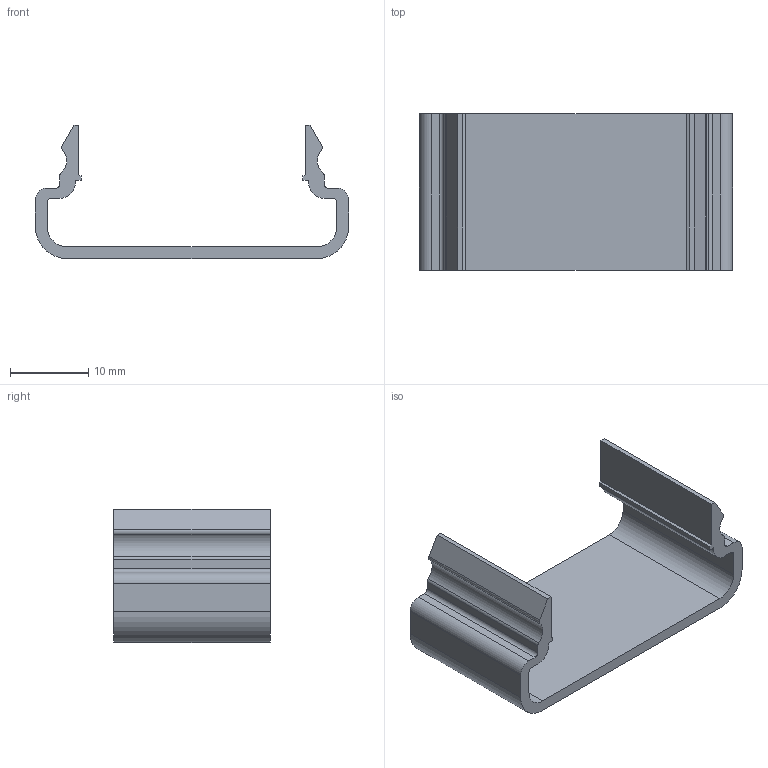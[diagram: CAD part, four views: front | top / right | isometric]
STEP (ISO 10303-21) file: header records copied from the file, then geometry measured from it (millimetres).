
FILE_DESCRIPTION(('STEP AP214'),'1');
FILE_NAME('cctmp_461DD5EF-0F09-424C-8E45-979C1D5C430A_2023_05_03_09_14_50_0979_41968..stp','2023-05-03T07:14:51',('item Industrietechnik GmbH'),('CADClick - www.CADClick.com'),'Spatial InterOp 3D',' ','unknown authorization');
FILE_SCHEMA(('AUTOMOTIVE_DESIGN'));
Length unit declared in the file: millimetre
Products named in the file (2): item_7000142_Conduit Profile U 40x20 E_L=20; item_7000142_Conduit Profile U 40x20 E_L=20_1
Assembly tree (1 placements, depth 2):
  item_7000142_Conduit Profile U 40x20 E_L=20
    item_7000142_Conduit Profile U 40x20 E_L=20_1
Bounding box: 40 x 20 x 17 mm (x, y, z)
Volume: 2267 mm3; surface area: 3242.9 mm2
Topology: 1 solids, 1 shells, 46 faces, 132 edges, 88 vertices
Faces by surface type: plane 28, cylinder 18
Entity records: 1931 total; most frequent: CARTESIAN_POINT 268, DIRECTION 264, ORIENTED_EDGE 264, EDGE_CURVE 132, LINE 96, VECTOR 96, VERTEX_POINT 88, AXIS2_PLACEMENT_3D 84
